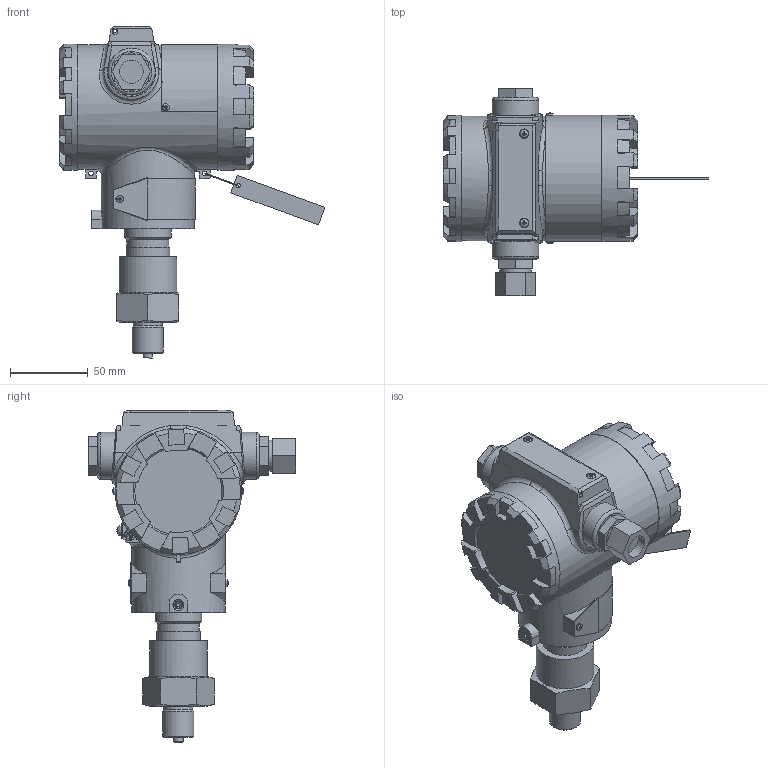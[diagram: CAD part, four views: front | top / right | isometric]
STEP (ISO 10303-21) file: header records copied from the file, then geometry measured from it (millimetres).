
FILE_DESCRIPTION(('STEP AP203'), '1');
FILE_NAME('ﾀ碵鸙鮱 萵粱褊韃 - ﾝﾌﾈﾑ-ﾁﾀﾐ 123 (錮矜 ﾌ20)', '', ('UNSPECIFIED'), ('UNSPECIFIED'), 'C3D Converter', 'C3D Toolkit', '');
FILE_SCHEMA(('CONFIG_CONTROL_DESIGN'));
Length unit declared in the file: millimetre
Bounding box: 170.73 x 133.5 x 213.17 mm (x, y, z)
Volume: 298480.2 mm3; surface area: 144522.9 mm2
Topology: 12 solids, 13 shells, 882 faces, 2323 edges, 1511 vertices
Faces by surface type: plane 505, cylinder 201, cone 95, bspline 68, sphere 7, torus 5, extrusion 1
Full cylindrical faces by diameter (mm): 1 x1, 1.6 x4, 2 x4, 2.5 x8, 2.8 x1, 3 x7, 3.165 x4, 3.8 x3, 4 x7, 4.5 x4, 5 x2, 5.5 x2, 5.999 x1, 6 x2, 10 x1, 15 x1, 18.499 x1, 19.999 x1, 20 x2, 26 x1, 27 x1, 28 x1, 30 x5, 30.8 x1, 31 x1, 37 x1, 55 x1, 58 x2, 60 x1, 66.3 x2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
Entity records: 45613 total; most frequent: CARTESIAN_POINT 17529, ORIENTED_EDGE 4377, DIRECTION 4130, EDGE_CURVE 2195, VERTEX_POINT 1503, AXIS2_PLACEMENT_3D 1490, VECTOR 1150, LINE 1149
